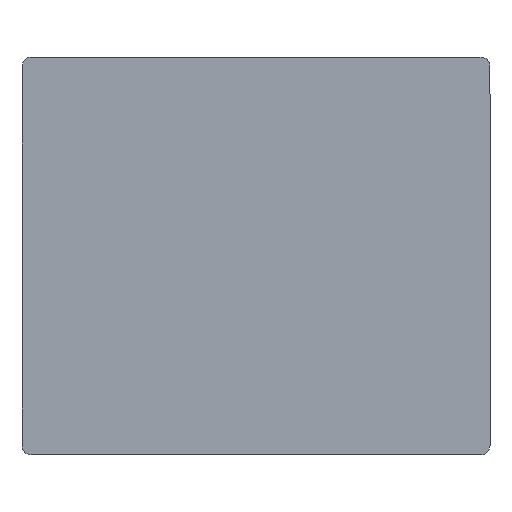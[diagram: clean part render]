
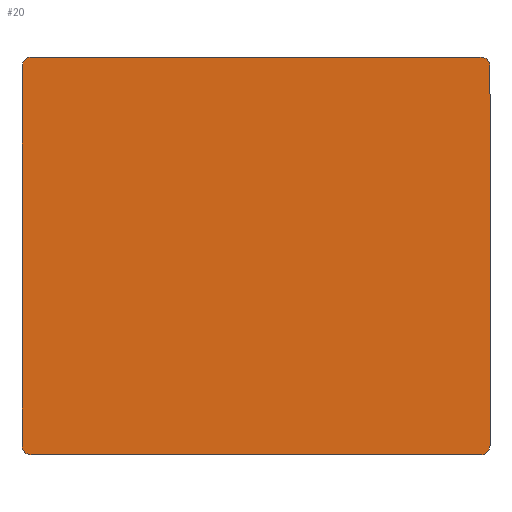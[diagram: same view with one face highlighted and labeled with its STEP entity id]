
A CAD part, top view. The second image highlights one B-rep face of the part: STEP entity #20.
In plain terms, the highlighted planar face has unit normal (0, 0, 1).
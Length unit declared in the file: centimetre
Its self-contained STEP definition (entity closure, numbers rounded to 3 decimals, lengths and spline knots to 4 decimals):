
#20=ADVANCED_FACE($,(#38),#217,.T.);
#38=FACE_OUTER_BOUND($,#56,.T.);
#56=EDGE_LOOP($,(#78,#79));
#78=ORIENTED_EDGE($,*,*,#146,.T.);
#79=ORIENTED_EDGE($,*,*,#149,.T.);
#146=EDGE_CURVE($,#181,#183,#225,.T.);
#149=EDGE_CURVE($,#183,#181,#227,.T.);
#181=VERTEX_POINT($,#443);
#183=VERTEX_POINT($,#445);
#217=PLANE($,#347);
#225=(
BOUNDED_CURVE()
B_SPLINE_CURVE(2,(#375,#376,#377,#378,#379,#380,#381,#382,#383),.UNSPECIFIED.,
.F.,.F.)
B_SPLINE_CURVE_WITH_KNOTS((3,2,2,2,3),(0.,31.4159,841.4159,
872.8319,1832.8319),.UNSPECIFIED.)
CURVE()
GEOMETRIC_REPRESENTATION_ITEM()
RATIONAL_B_SPLINE_CURVE((1.,0.707,1.,1.,1.,0.707,
1.,1.,1.))
REPRESENTATION_ITEM($)
);
#227=(
BOUNDED_CURVE()
B_SPLINE_CURVE(2,(#395,#396,#397,#398,#399,#400,#401,#402,#403),.UNSPECIFIED.,
.F.,.F.)
B_SPLINE_CURVE_WITH_KNOTS((3,2,2,2,3),(1832.8319,1864.2478,
2674.2478,2705.6637,3665.6637),.UNSPECIFIED.)
CURVE()
GEOMETRIC_REPRESENTATION_ITEM()
RATIONAL_B_SPLINE_CURVE((1.,0.707,1.,1.,1.,0.707,
1.,1.,1.))
REPRESENTATION_ITEM($)
);
#347=AXIS2_PLACEMENT_3D($,#423,#356,$);
#356=DIRECTION($,(0.,0.,1.));
#375=CARTESIAN_POINT($,(3.3201,85.9946,41.7));
#376=CARTESIAN_POINT($,(1.3201,85.9946,41.7));
#377=CARTESIAN_POINT($,(1.3201,83.9946,41.7));
#378=CARTESIAN_POINT($,(1.3201,43.4946,41.7));
#379=CARTESIAN_POINT($,(1.3201,2.9946,41.7));
#380=CARTESIAN_POINT($,(1.3201,0.9946,41.7));
#381=CARTESIAN_POINT($,(3.3201,0.9946,41.7));
#382=CARTESIAN_POINT($,(51.3201,0.9946,41.7));
#383=CARTESIAN_POINT($,(99.3201,0.9946,41.7));
#395=CARTESIAN_POINT($,(99.3201,0.9946,41.7));
#396=CARTESIAN_POINT($,(101.3201,0.9946,41.7));
#397=CARTESIAN_POINT($,(101.3201,2.9946,41.7));
#398=CARTESIAN_POINT($,(101.3201,43.4946,41.7));
#399=CARTESIAN_POINT($,(101.3201,83.9946,41.7));
#400=CARTESIAN_POINT($,(101.3201,85.9946,41.7));
#401=CARTESIAN_POINT($,(99.3201,85.9946,41.7));
#402=CARTESIAN_POINT($,(51.3201,85.9946,41.7));
#403=CARTESIAN_POINT($,(3.3201,85.9946,41.7));
#423=CARTESIAN_POINT($,(1.3201,0.9946,41.7));
#443=CARTESIAN_POINT($,(3.3201,85.9946,41.7));
#445=CARTESIAN_POINT($,(99.3201,0.9946,41.7));
